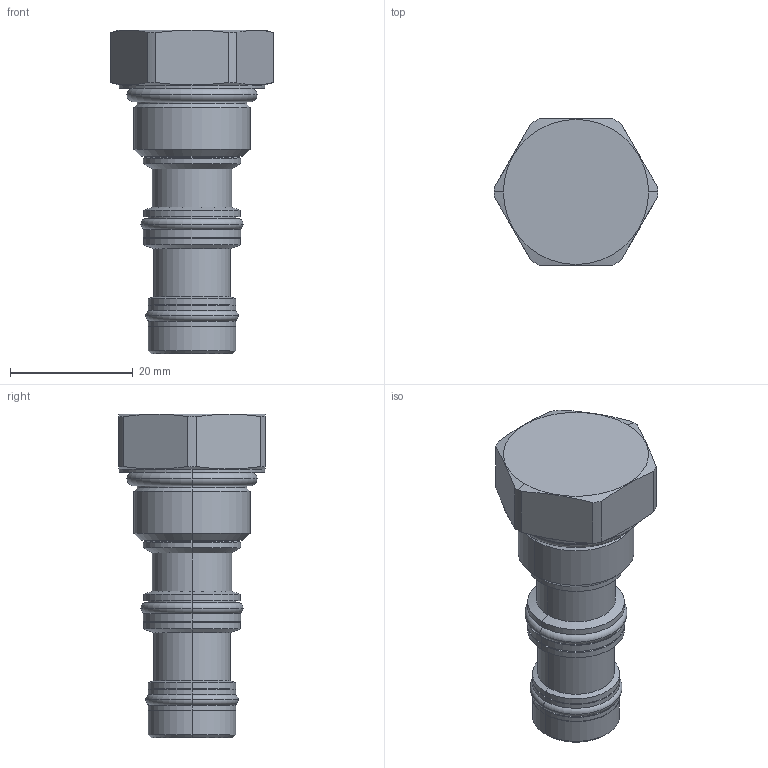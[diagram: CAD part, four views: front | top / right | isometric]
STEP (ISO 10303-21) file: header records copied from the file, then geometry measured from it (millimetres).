
FILE_DESCRIPTION((''),'2;1');
FILE_NAME('HPC08-30','2014-04-11T',('mg1'),(''),'PRO/ENGINEER BY PARAMETRIC TECHNOLOGY CORPORATION, 2013230','PRO/ENGINEER BY PARAMETRIC TECHNOLOGY CORPORATION, 2013230','');
FILE_SCHEMA(('CONFIG_CONTROL_DESIGN'));
Length unit declared in the file: millimetre
Products named in the file (1): HPC08-30
Bounding box: 26.67 x 23.8 x 52.7 mm (x, y, z)
Volume: 12652.3 mm3; surface area: 4643.8 mm2
Topology: 1 solids, 1 shells, 115 faces, 254 edges, 154 vertices
Faces by surface type: cylinder 50, plane 21, cone 20, torus 16, revolution 8
Entity records: 3365 total; most frequent: CARTESIAN_POINT 692, DIRECTION 614, ORIENTED_EDGE 508, AXIS2_PLACEMENT_3D 265, EDGE_CURVE 254, CIRCLE 158, VERTEX_POINT 154, EDGE_LOOP 128
